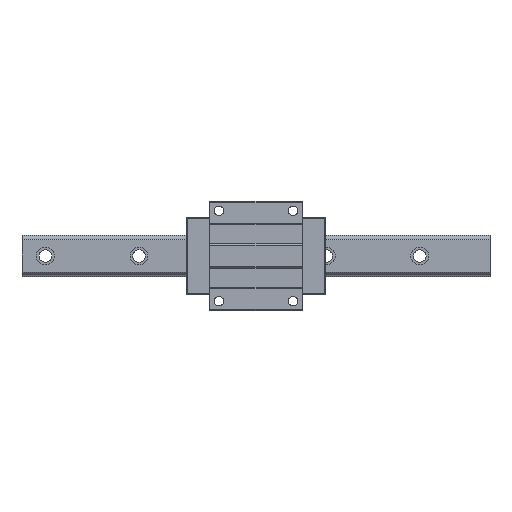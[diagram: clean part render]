
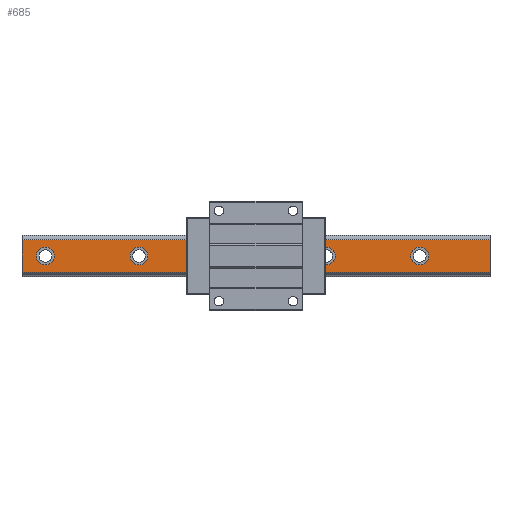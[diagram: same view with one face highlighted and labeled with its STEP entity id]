
A CAD part, top view. The second image highlights one B-rep face of the part: STEP entity #685.
In plain terms, the highlighted planar face has unit normal (0, 0, 1).
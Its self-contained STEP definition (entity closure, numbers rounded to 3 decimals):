
#42 = CARTESIAN_POINT ( 'NONE',  ( -161.5, 0., 44. ) ) ;
#45 = EDGE_LOOP ( 'NONE', ( #5934, #6507 ) ) ;
#71 = CARTESIAN_POINT ( 'NONE',  ( 221.5, 0., 44. ) ) ;
#74 = EDGE_CURVE ( 'NONE', #2463, #2112, #3915, .T. ) ;
#95 = CARTESIAN_POINT ( 'NONE',  ( 300., -20.932, 44. ) ) ;
#132 = LINE ( 'NONE', #6173, #2962 ) ;
#195 = DIRECTION ( 'NONE',  ( 0., 0., -1. ) ) ;
#312 = EDGE_CURVE ( 'NONE', #2366, #6420, #3704, .T. ) ;
#408 = EDGE_CURVE ( 'NONE', #6420, #2366, #1702, .T. ) ;
#416 = CARTESIAN_POINT ( 'NONE',  ( 300., 20.932, 44. ) ) ;
#466 = CARTESIAN_POINT ( 'NONE',  ( -300., -20.932, 44. ) ) ;
#473 = VERTEX_POINT ( 'NONE', #2323 ) ;
#530 = VERTEX_POINT ( 'NONE', #2007 ) ;
#555 = ORIENTED_EDGE ( 'NONE', *, *, #1698, .F. ) ;
#685 = ADVANCED_FACE ( 'NONE', ( #2198, #3684, #4236, #1668, #4754, #3620 ), #4178, .F. ) ;
#872 = ORIENTED_EDGE ( 'NONE', *, *, #5328, .F. ) ;
#914 = CARTESIAN_POINT ( 'NONE',  ( -300., -20.932, 44. ) ) ;
#995 = CARTESIAN_POINT ( 'NONE',  ( -30., 0., 44. ) ) ;
#1024 = EDGE_CURVE ( 'NONE', #3717, #2270, #4556, .T. ) ;
#1130 = CARTESIAN_POINT ( 'NONE',  ( -30., 0., 44. ) ) ;
#1174 = EDGE_LOOP ( 'NONE', ( #872, #6269 ) ) ;
#1241 = ORIENTED_EDGE ( 'NONE', *, *, #3272, .F. ) ;
#1243 = ORIENTED_EDGE ( 'NONE', *, *, #4841, .T. ) ;
#1394 = DIRECTION ( 'NONE',  ( 1., 0., 0. ) ) ;
#1422 = AXIS2_PLACEMENT_3D ( 'NONE', #1836, #3849, #5425 ) ;
#1447 = DIRECTION ( 'NONE',  ( 1., 0., 0. ) ) ;
#1460 = CIRCLE ( 'NONE', #3142, 11.5 ) ;
#1547 = DIRECTION ( 'NONE',  ( 1., 0., 0. ) ) ;
#1557 = DIRECTION ( 'NONE',  ( 1., 0., 0. ) ) ;
#1648 = DIRECTION ( 'NONE',  ( 0., 0., 1. ) ) ;
#1666 = EDGE_CURVE ( 'NONE', #3396, #2192, #5413, .T. ) ;
#1668 = FACE_BOUND ( 'NONE', #1174, .T. ) ;
#1672 = DIRECTION ( 'NONE',  ( 0., -1., 0. ) ) ;
#1698 = EDGE_CURVE ( 'NONE', #2270, #3717, #3199, .T. ) ;
#1702 = CIRCLE ( 'NONE', #6213, 11.5 ) ;
#1728 = EDGE_LOOP ( 'NONE', ( #2342, #4402 ) ) ;
#1836 = CARTESIAN_POINT ( 'NONE',  ( -150., 0., 44. ) ) ;
#1877 = EDGE_LOOP ( 'NONE', ( #1243, #3472, #1977, #3635 ) ) ;
#1889 = LINE ( 'NONE', #416, #2521 ) ;
#1891 = DIRECTION ( 'NONE',  ( 1., 0., 0. ) ) ;
#1893 = DIRECTION ( 'NONE',  ( 0., 0., 1. ) ) ;
#1977 = ORIENTED_EDGE ( 'NONE', *, *, #3155, .F. ) ;
#2007 = CARTESIAN_POINT ( 'NONE',  ( -300., 20.932, 44. ) ) ;
#2060 = DIRECTION ( 'NONE',  ( 0., 0., 1. ) ) ;
#2112 = VERTEX_POINT ( 'NONE', #466 ) ;
#2131 = AXIS2_PLACEMENT_3D ( 'NONE', #4777, #2901, #1891 ) ;
#2142 = EDGE_LOOP ( 'NONE', ( #555, #2925 ) ) ;
#2164 = EDGE_CURVE ( 'NONE', #6337, #3062, #2566, .T. ) ;
#2192 = VERTEX_POINT ( 'NONE', #71 ) ;
#2198 = FACE_BOUND ( 'NONE', #1728, .T. ) ;
#2231 = VERTEX_POINT ( 'NONE', #42 ) ;
#2255 = CARTESIAN_POINT ( 'NONE',  ( 198.5, 0., 44. ) ) ;
#2270 = VERTEX_POINT ( 'NONE', #3028 ) ;
#2323 = CARTESIAN_POINT ( 'NONE',  ( -138.5, 0., 44. ) ) ;
#2342 = ORIENTED_EDGE ( 'NONE', *, *, #3615, .F. ) ;
#2366 = VERTEX_POINT ( 'NONE', #6235 ) ;
#2368 = EDGE_LOOP ( 'NONE', ( #6418, #1241 ) ) ;
#2426 = CARTESIAN_POINT ( 'NONE',  ( 300., -20.932, 44. ) ) ;
#2463 = VERTEX_POINT ( 'NONE', #2426 ) ;
#2497 = CIRCLE ( 'NONE', #5749, 11.5 ) ;
#2521 = VECTOR ( 'NONE', #6450, 1000. ) ;
#2566 = CIRCLE ( 'NONE', #5199, 11.5 ) ;
#2703 = EDGE_CURVE ( 'NONE', #2231, #473, #4260, .T. ) ;
#2821 = CARTESIAN_POINT ( 'NONE',  ( 101.5, 0., 44. ) ) ;
#2863 = LINE ( 'NONE', #914, #3879 ) ;
#2901 = DIRECTION ( 'NONE',  ( 0., 0., 1. ) ) ;
#2925 = ORIENTED_EDGE ( 'NONE', *, *, #1024, .F. ) ;
#2929 = CARTESIAN_POINT ( 'NONE',  ( 90., 0., 44. ) ) ;
#2962 = VECTOR ( 'NONE', #1672, 1000. ) ;
#3028 = CARTESIAN_POINT ( 'NONE',  ( -18.5, 0., 44. ) ) ;
#3062 = VERTEX_POINT ( 'NONE', #5133 ) ;
#3116 = CARTESIAN_POINT ( 'NONE',  ( 210., 0., 44. ) ) ;
#3142 = AXIS2_PLACEMENT_3D ( 'NONE', #3116, #4116, #4593 ) ;
#3155 = EDGE_CURVE ( 'NONE', #3197, #2463, #132, .T. ) ;
#3176 = VECTOR ( 'NONE', #5877, 1000. ) ;
#3187 = DIRECTION ( 'NONE',  ( 0., -1., 0. ) ) ;
#3197 = VERTEX_POINT ( 'NONE', #4785 ) ;
#3199 = CIRCLE ( 'NONE', #5193, 11.5 ) ;
#3272 = EDGE_CURVE ( 'NONE', #3062, #6337, #2497, .T. ) ;
#3298 = DIRECTION ( 'NONE',  ( 1., 0., 0. ) ) ;
#3366 = CARTESIAN_POINT ( 'NONE',  ( -258.5, 0., 44. ) ) ;
#3396 = VERTEX_POINT ( 'NONE', #2255 ) ;
#3472 = ORIENTED_EDGE ( 'NONE', *, *, #74, .F. ) ;
#3495 = CARTESIAN_POINT ( 'NONE',  ( 300., -20.932, 44. ) ) ;
#3503 = DIRECTION ( 'NONE',  ( 0., 0., 1. ) ) ;
#3615 = EDGE_CURVE ( 'NONE', #2192, #3396, #1460, .T. ) ;
#3620 = FACE_OUTER_BOUND ( 'NONE', #1877, .T. ) ;
#3635 = ORIENTED_EDGE ( 'NONE', *, *, #6010, .T. ) ;
#3684 = FACE_BOUND ( 'NONE', #45, .T. ) ;
#3704 = CIRCLE ( 'NONE', #2131, 11.5 ) ;
#3717 = VERTEX_POINT ( 'NONE', #4263 ) ;
#3835 = AXIS2_PLACEMENT_3D ( 'NONE', #6381, #1893, #1394 ) ;
#3849 = DIRECTION ( 'NONE',  ( 0., 0., 1. ) ) ;
#3879 = VECTOR ( 'NONE', #4318, 1000. ) ;
#3915 = LINE ( 'NONE', #3495, #3176 ) ;
#3963 = DIRECTION ( 'NONE',  ( 0., 0., 1. ) ) ;
#3987 = CIRCLE ( 'NONE', #5244, 11.5 ) ;
#4116 = DIRECTION ( 'NONE',  ( 0., 0., 1. ) ) ;
#4178 = PLANE ( 'NONE',  #4853 ) ;
#4236 = FACE_BOUND ( 'NONE', #2142, .T. ) ;
#4260 = CIRCLE ( 'NONE', #1422, 11.5 ) ;
#4263 = CARTESIAN_POINT ( 'NONE',  ( -41.5, 0., 44. ) ) ;
#4318 = DIRECTION ( 'NONE',  ( 0., -1., 0. ) ) ;
#4402 = ORIENTED_EDGE ( 'NONE', *, *, #1666, .F. ) ;
#4479 = DIRECTION ( 'NONE',  ( 1., 0., 0. ) ) ;
#4556 = CIRCLE ( 'NONE', #4758, 11.5 ) ;
#4593 = DIRECTION ( 'NONE',  ( 1., 0., 0. ) ) ;
#4754 = FACE_BOUND ( 'NONE', #2368, .T. ) ;
#4758 = AXIS2_PLACEMENT_3D ( 'NONE', #995, #2060, #5448 ) ;
#4777 = CARTESIAN_POINT ( 'NONE',  ( 90., 0., 44. ) ) ;
#4785 = CARTESIAN_POINT ( 'NONE',  ( 300., 20.932, 44. ) ) ;
#4841 = EDGE_CURVE ( 'NONE', #530, #2112, #2863, .T. ) ;
#4853 = AXIS2_PLACEMENT_3D ( 'NONE', #95, #195, #3187 ) ;
#4969 = CARTESIAN_POINT ( 'NONE',  ( -150., 0., 44. ) ) ;
#5133 = CARTESIAN_POINT ( 'NONE',  ( -281.5, 0., 44. ) ) ;
#5193 = AXIS2_PLACEMENT_3D ( 'NONE', #1130, #1648, #3298 ) ;
#5199 = AXIS2_PLACEMENT_3D ( 'NONE', #5530, #5506, #1547 ) ;
#5244 = AXIS2_PLACEMENT_3D ( 'NONE', #4969, #3503, #1447 ) ;
#5328 = EDGE_CURVE ( 'NONE', #473, #2231, #3987, .T. ) ;
#5413 = CIRCLE ( 'NONE', #3835, 11.5 ) ;
#5425 = DIRECTION ( 'NONE',  ( 1., 0., 0. ) ) ;
#5448 = DIRECTION ( 'NONE',  ( 1., 0., 0. ) ) ;
#5506 = DIRECTION ( 'NONE',  ( 0., 0., 1. ) ) ;
#5530 = CARTESIAN_POINT ( 'NONE',  ( -270., 0., 44. ) ) ;
#5609 = CARTESIAN_POINT ( 'NONE',  ( -270., 0., 44. ) ) ;
#5641 = DIRECTION ( 'NONE',  ( 0., 0., 1. ) ) ;
#5749 = AXIS2_PLACEMENT_3D ( 'NONE', #5609, #5641, #1557 ) ;
#5877 = DIRECTION ( 'NONE',  ( -1., 0., 0. ) ) ;
#5934 = ORIENTED_EDGE ( 'NONE', *, *, #408, .F. ) ;
#6010 = EDGE_CURVE ( 'NONE', #3197, #530, #1889, .T. ) ;
#6173 = CARTESIAN_POINT ( 'NONE',  ( 300., -20.932, 44. ) ) ;
#6213 = AXIS2_PLACEMENT_3D ( 'NONE', #2929, #3963, #4479 ) ;
#6235 = CARTESIAN_POINT ( 'NONE',  ( 78.5, 0., 44. ) ) ;
#6269 = ORIENTED_EDGE ( 'NONE', *, *, #2703, .F. ) ;
#6337 = VERTEX_POINT ( 'NONE', #3366 ) ;
#6381 = CARTESIAN_POINT ( 'NONE',  ( 210., 0., 44. ) ) ;
#6418 = ORIENTED_EDGE ( 'NONE', *, *, #2164, .F. ) ;
#6420 = VERTEX_POINT ( 'NONE', #2821 ) ;
#6450 = DIRECTION ( 'NONE',  ( -1., 0., 0. ) ) ;
#6507 = ORIENTED_EDGE ( 'NONE', *, *, #312, .F. ) ;
